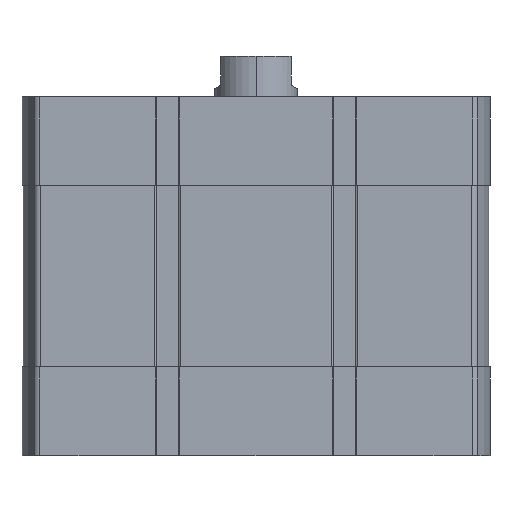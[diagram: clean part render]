
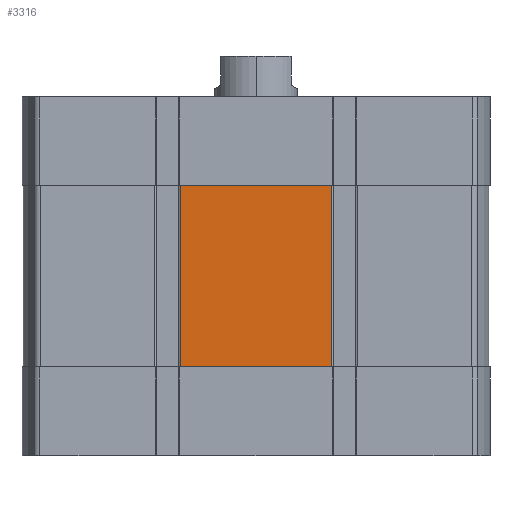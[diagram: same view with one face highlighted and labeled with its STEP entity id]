
A CAD part, left-side view. The second image highlights one B-rep face of the part: STEP entity #3316.
In plain terms, the highlighted planar face has unit normal (-1, 0, 0).
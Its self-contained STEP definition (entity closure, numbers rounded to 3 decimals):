
#211 = CARTESIAN_POINT ( 'NONE',  ( -56.5, -18.345, -21.5 ) ) ;
#616 = CARTESIAN_POINT ( 'NONE',  ( -56.5, 18.345, -65.5 ) ) ;
#799 = AXIS2_PLACEMENT_3D ( 'NONE', #616, #10169, #5756 ) ;
#1049 = CARTESIAN_POINT ( 'NONE',  ( -56.5, 18.345, -21.5 ) ) ;
#1564 = CARTESIAN_POINT ( 'NONE',  ( -56.5, 18.345, -65.5 ) ) ;
#3136 = VERTEX_POINT ( 'NONE', #211 ) ;
#3316 = ADVANCED_FACE ( 'NONE', ( #5452 ), #13467, .T. ) ;
#5452 = FACE_OUTER_BOUND ( 'NONE', #15525, .T. ) ;
#5756 = DIRECTION ( 'NONE',  ( 0., 0., 1. ) ) ;
#8142 = ORIENTED_EDGE ( 'NONE', *, *, #15904, .T. ) ;
#8761 = LINE ( 'NONE', #1049, #19532 ) ;
#8870 = DIRECTION ( 'NONE',  ( 0., -1., 0. ) ) ;
#10047 = EDGE_CURVE ( 'NONE', #14025, #11631, #18010, .T. ) ;
#10169 = DIRECTION ( 'NONE',  ( -1., 0., 0. ) ) ;
#11117 = ORIENTED_EDGE ( 'NONE', *, *, #13061, .F. ) ;
#11156 = VECTOR ( 'NONE', #8870, 1000. ) ;
#11631 = VERTEX_POINT ( 'NONE', #15523 ) ;
#11659 = VECTOR ( 'NONE', #18714, 1000. ) ;
#12038 = DIRECTION ( 'NONE',  ( 0., -1., 0. ) ) ;
#12099 = DIRECTION ( 'NONE',  ( 0., 0., 1. ) ) ;
#12438 = CARTESIAN_POINT ( 'NONE',  ( -56.5, -18.345, -65.5 ) ) ;
#12452 = ORIENTED_EDGE ( 'NONE', *, *, #10047, .T. ) ;
#12752 = VERTEX_POINT ( 'NONE', #18121 ) ;
#13061 = EDGE_CURVE ( 'NONE', #14025, #12752, #14052, .T. ) ;
#13467 = PLANE ( 'NONE',  #799 ) ;
#13758 = VECTOR ( 'NONE', #12099, 1000. ) ;
#14025 = VERTEX_POINT ( 'NONE', #1564 ) ;
#14052 = LINE ( 'NONE', #16454, #13758 ) ;
#14087 = LINE ( 'NONE', #12438, #11659 ) ;
#15523 = CARTESIAN_POINT ( 'NONE',  ( -56.5, -18.345, -65.5 ) ) ;
#15525 = EDGE_LOOP ( 'NONE', ( #17340, #11117, #12452, #8142 ) ) ;
#15827 = EDGE_CURVE ( 'NONE', #12752, #3136, #8761, .T. ) ;
#15904 = EDGE_CURVE ( 'NONE', #11631, #3136, #14087, .T. ) ;
#16454 = CARTESIAN_POINT ( 'NONE',  ( -56.5, 18.345, -65.5 ) ) ;
#17340 = ORIENTED_EDGE ( 'NONE', *, *, #15827, .F. ) ;
#18010 = LINE ( 'NONE', #18221, #11156 ) ;
#18121 = CARTESIAN_POINT ( 'NONE',  ( -56.5, 18.345, -21.5 ) ) ;
#18221 = CARTESIAN_POINT ( 'NONE',  ( -56.5, 18.345, -65.5 ) ) ;
#18714 = DIRECTION ( 'NONE',  ( 0., 0., 1. ) ) ;
#19532 = VECTOR ( 'NONE', #12038, 1000. ) ;
